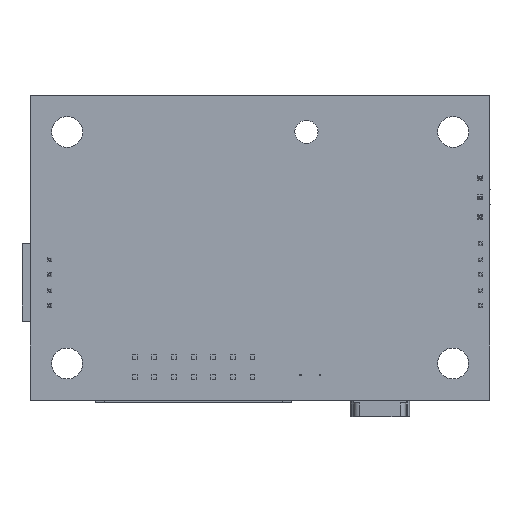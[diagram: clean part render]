
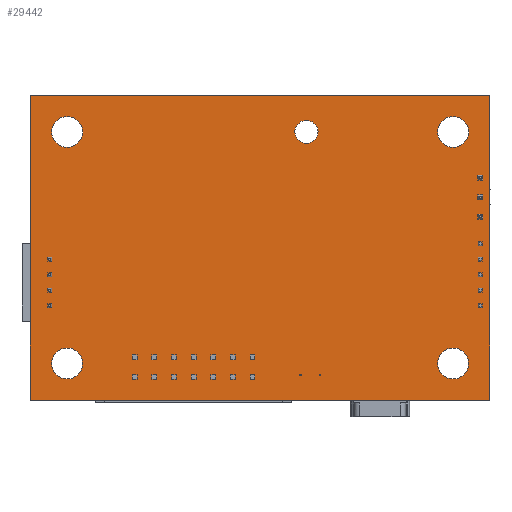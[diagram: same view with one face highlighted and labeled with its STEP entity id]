
A CAD part, front view. The second image highlights one B-rep face of the part: STEP entity #29442.
In plain terms, the highlighted planar face has unit normal (0, -1, 0).
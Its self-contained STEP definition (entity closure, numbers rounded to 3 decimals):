
#20345 = CARTESIAN_POINT ( 'NONE',  ( 6., -1.57, 16.5 ) ) ;
#20412 = CARTESIAN_POINT ( 'NONE',  ( -25., -1.57, 17. ) ) ;
#20414 = CARTESIAN_POINT ( 'NONE',  ( -25., -1.57, 13. ) ) ;
#20416 = DIRECTION ( 'NONE',  ( 0., 0., 1. ) ) ;
#20418 = DIRECTION ( 'NONE',  ( 0., 1., 0. ) ) ;
#20421 = CARTESIAN_POINT ( 'NONE',  ( -25., -1.57, 15. ) ) ;
#20423 = AXIS2_PLACEMENT_3D ( 'NONE', #20421, #20418, #20416 ) ;
#20424 = CIRCLE ( 'NONE', #20423, 2. ) ;
#20437 = CIRCLE ( 'NONE', #20567, 2. ) ;
#20478 = CARTESIAN_POINT ( 'NONE',  ( -25., -1.57, -13. ) ) ;
#20481 = CARTESIAN_POINT ( 'NONE',  ( -25., -1.57, -17. ) ) ;
#20483 = DIRECTION ( 'NONE',  ( 0., 0., 1. ) ) ;
#20484 = DIRECTION ( 'NONE',  ( 0., 1., 0. ) ) ;
#20486 = CARTESIAN_POINT ( 'NONE',  ( -25., -1.57, -15. ) ) ;
#20487 = AXIS2_PLACEMENT_3D ( 'NONE', #20486, #20484, #20483 ) ;
#20499 = CIRCLE ( 'NONE', #20487, 2. ) ;
#20531 = CARTESIAN_POINT ( 'NONE',  ( 25., -1.57, -13. ) ) ;
#20541 = CARTESIAN_POINT ( 'NONE',  ( 25., -1.57, -17. ) ) ;
#20561 = DIRECTION ( 'NONE',  ( 0., 0., 1. ) ) ;
#20563 = DIRECTION ( 'NONE',  ( 0., 1., 0. ) ) ;
#20565 = CARTESIAN_POINT ( 'NONE',  ( 25., -1.57, 15. ) ) ;
#20567 = AXIS2_PLACEMENT_3D ( 'NONE', #20565, #20563, #20561 ) ;
#20599 = CARTESIAN_POINT ( 'NONE',  ( 25., -1.57, 17. ) ) ;
#20601 = CARTESIAN_POINT ( 'NONE',  ( 25., -1.57, 13. ) ) ;
#20603 = DIRECTION ( 'NONE',  ( 0., 0., 1. ) ) ;
#20605 = DIRECTION ( 'NONE',  ( 0., 1., 0. ) ) ;
#20607 = CARTESIAN_POINT ( 'NONE',  ( 25., -1.57, 15. ) ) ;
#20608 = AXIS2_PLACEMENT_3D ( 'NONE', #20607, #20605, #20603 ) ;
#20610 = CIRCLE ( 'NONE', #20608, 2. ) ;
#20613 = DIRECTION ( 'NONE',  ( 0., 0., 1. ) ) ;
#20615 = DIRECTION ( 'NONE',  ( 0., 1., 0. ) ) ;
#20617 = CARTESIAN_POINT ( 'NONE',  ( 25., -1.57, -15. ) ) ;
#20618 = AXIS2_PLACEMENT_3D ( 'NONE', #20617, #20615, #20613 ) ;
#20629 = CIRCLE ( 'NONE', #20618, 2. ) ;
#20649 = VECTOR ( 'NONE', #20793, 1000. ) ;
#20651 = CARTESIAN_POINT ( 'NONE',  ( -29.75, -1.57, -19.75 ) ) ;
#20652 = LINE ( 'NONE', #20651, #20649 ) ;
#20659 = CARTESIAN_POINT ( 'NONE',  ( -29.75, -1.57, -19.75 ) ) ;
#20669 = CARTESIAN_POINT ( 'NONE',  ( 6., -1.57, 13.5 ) ) ;
#20671 = DIRECTION ( 'NONE',  ( 0., 0., 1. ) ) ;
#20672 = DIRECTION ( 'NONE',  ( 0., 1., 0. ) ) ;
#20674 = CARTESIAN_POINT ( 'NONE',  ( 6., -1.57, 15. ) ) ;
#20676 = AXIS2_PLACEMENT_3D ( 'NONE', #20674, #20672, #20671 ) ;
#20677 = CIRCLE ( 'NONE', #20676, 1.5 ) ;
#20683 = DIRECTION ( 'NONE',  ( 0., 0., 1. ) ) ;
#20685 = DIRECTION ( 'NONE',  ( 0., 1., 0. ) ) ;
#20687 = CARTESIAN_POINT ( 'NONE',  ( 25., -1.57, -15. ) ) ;
#20689 = AXIS2_PLACEMENT_3D ( 'NONE', #20687, #20685, #20683 ) ;
#20702 = CIRCLE ( 'NONE', #20689, 2. ) ;
#20722 = DIRECTION ( 'NONE',  ( 0., 1., 0. ) ) ;
#20724 = CARTESIAN_POINT ( 'NONE',  ( -25., -1.57, -15. ) ) ;
#20726 = AXIS2_PLACEMENT_3D ( 'NONE', #20724, #20722, #20869 ) ;
#20737 = CIRCLE ( 'NONE', #20726, 2. ) ;
#20791 = CARTESIAN_POINT ( 'NONE',  ( -29.75, -1.57, 19.75 ) ) ;
#20793 = DIRECTION ( 'NONE',  ( 0., 0., 1. ) ) ;
#20795 = DIRECTION ( 'NONE',  ( 0., 1., 0. ) ) ;
#20796 = CARTESIAN_POINT ( 'NONE',  ( -25., -1.57, 15. ) ) ;
#20797 = AXIS2_PLACEMENT_3D ( 'NONE', #20796, #20795, #20943 ) ;
#20809 = CIRCLE ( 'NONE', #20797, 2. ) ;
#20832 = DIRECTION ( 'NONE',  ( 0., 0., 1. ) ) ;
#20834 = DIRECTION ( 'NONE',  ( 0., 1., 0. ) ) ;
#20836 = CARTESIAN_POINT ( 'NONE',  ( 6., -1.57, 15. ) ) ;
#20837 = AXIS2_PLACEMENT_3D ( 'NONE', #20836, #20834, #20832 ) ;
#20847 = CIRCLE ( 'NONE', #20837, 1.5 ) ;
#20869 = DIRECTION ( 'NONE',  ( 0., 0., 1. ) ) ;
#20874 = CARTESIAN_POINT ( 'NONE',  ( -29.75, -1.57, 19.75 ) ) ;
#20875 = PLANE ( 'NONE',  #21019 ) ;
#20877 = FACE_OUTER_BOUND ( 'NONE', #29487, .T. ) ;
#20878 = FACE_BOUND ( 'NONE', #29430, .T. ) ;
#20879 = FACE_BOUND ( 'NONE', #29427, .T. ) ;
#20881 = FACE_BOUND ( 'NONE', #29424, .T. ) ;
#20882 = FACE_BOUND ( 'NONE', #29499, .T. ) ;
#20884 = FACE_BOUND ( 'NONE', #29443, .T. ) ;
#20886 = DIRECTION ( 'NONE',  ( 1., 0., 0. ) ) ;
#20888 = VECTOR ( 'NONE', #20886, 1000. ) ;
#20890 = CARTESIAN_POINT ( 'NONE',  ( -29.75, -1.57, 19.75 ) ) ;
#20892 = LINE ( 'NONE', #20890, #20888 ) ;
#20919 = DIRECTION ( 'NONE',  ( 0., 0., -1. ) ) ;
#20921 = VECTOR ( 'NONE', #20919, 1000. ) ;
#20923 = CARTESIAN_POINT ( 'NONE',  ( 29.75, -1.57, -19.75 ) ) ;
#20924 = LINE ( 'NONE', #20923, #20921 ) ;
#20943 = DIRECTION ( 'NONE',  ( 0., 0., 1. ) ) ;
#20956 = CARTESIAN_POINT ( 'NONE',  ( 29.75, -1.57, 19.75 ) ) ;
#20993 = DIRECTION ( 'NONE',  ( -1., 0., 0. ) ) ;
#20994 = VECTOR ( 'NONE', #20993, 1000. ) ;
#20996 = CARTESIAN_POINT ( 'NONE',  ( -29.75, -1.57, -19.75 ) ) ;
#20998 = LINE ( 'NONE', #20996, #20994 ) ;
#21003 = CARTESIAN_POINT ( 'NONE',  ( 29.75, -1.57, -19.75 ) ) ;
#21016 = DIRECTION ( 'NONE',  ( 0., 0., 1. ) ) ;
#21018 = DIRECTION ( 'NONE',  ( 0., 1., 0. ) ) ;
#21019 = AXIS2_PLACEMENT_3D ( 'NONE', #20874, #21018, #21016 ) ;
#29302 = VERTEX_POINT ( 'NONE', #20345 ) ;
#29316 = EDGE_CURVE ( 'NONE', #29317, #29318, #20424, .T. ) ;
#29317 = VERTEX_POINT ( 'NONE', #20414 ) ;
#29318 = VERTEX_POINT ( 'NONE', #20412 ) ;
#29332 = EDGE_CURVE ( 'NONE', #29333, #29334, #20499, .T. ) ;
#29333 = VERTEX_POINT ( 'NONE', #20481 ) ;
#29334 = VERTEX_POINT ( 'NONE', #20478 ) ;
#29347 = EDGE_CURVE ( 'NONE', #29369, #29368, #20437, .T. ) ;
#29352 = VERTEX_POINT ( 'NONE', #20541 ) ;
#29353 = VERTEX_POINT ( 'NONE', #20531 ) ;
#29366 = EDGE_CURVE ( 'NONE', #29353, #29352, #20629, .T. ) ;
#29367 = EDGE_CURVE ( 'NONE', #29368, #29369, #20610, .T. ) ;
#29368 = VERTEX_POINT ( 'NONE', #20601 ) ;
#29369 = VERTEX_POINT ( 'NONE', #20599 ) ;
#29381 = EDGE_CURVE ( 'NONE', #29352, #29353, #20702, .T. ) ;
#29383 = EDGE_CURVE ( 'NONE', #29384, #29302, #20677, .T. ) ;
#29384 = VERTEX_POINT ( 'NONE', #20669 ) ;
#29386 = VERTEX_POINT ( 'NONE', #20659 ) ;
#29388 = EDGE_CURVE ( 'NONE', #29386, #29389, #20652, .T. ) ;
#29389 = VERTEX_POINT ( 'NONE', #20791 ) ;
#29403 = EDGE_CURVE ( 'NONE', #29334, #29333, #20737, .T. ) ;
#29412 = EDGE_CURVE ( 'NONE', #29302, #29384, #20847, .T. ) ;
#29420 = EDGE_CURVE ( 'NONE', #29318, #29317, #20809, .T. ) ;
#29424 = EDGE_LOOP ( 'NONE', ( #29425, #29426 ) ) ;
#29425 = ORIENTED_EDGE ( 'NONE', *, *, #29412, .T. ) ;
#29426 = ORIENTED_EDGE ( 'NONE', *, *, #29383, .T. ) ;
#29427 = EDGE_LOOP ( 'NONE', ( #29428, #29429 ) ) ;
#29428 = ORIENTED_EDGE ( 'NONE', *, *, #29403, .T. ) ;
#29429 = ORIENTED_EDGE ( 'NONE', *, *, #29332, .T. ) ;
#29430 = EDGE_LOOP ( 'NONE', ( #29485, #29486 ) ) ;
#29432 = EDGE_CURVE ( 'NONE', #29458, #29447, #20924, .T. ) ;
#29440 = EDGE_CURVE ( 'NONE', #29389, #29458, #20892, .T. ) ;
#29442 = ADVANCED_FACE ( 'NONE', ( #20884, #20882, #20881, #20879, #20878, #20877 ), #20875, .F. ) ;
#29443 = EDGE_LOOP ( 'NONE', ( #29497, #29498 ) ) ;
#29447 = VERTEX_POINT ( 'NONE', #21003 ) ;
#29449 = EDGE_CURVE ( 'NONE', #29447, #29386, #20998, .T. ) ;
#29458 = VERTEX_POINT ( 'NONE', #20956 ) ;
#29485 = ORIENTED_EDGE ( 'NONE', *, *, #29420, .T. ) ;
#29486 = ORIENTED_EDGE ( 'NONE', *, *, #29316, .T. ) ;
#29487 = EDGE_LOOP ( 'NONE', ( #29488, #29489, #29490, #29491 ) ) ;
#29488 = ORIENTED_EDGE ( 'NONE', *, *, #29388, .F. ) ;
#29489 = ORIENTED_EDGE ( 'NONE', *, *, #29449, .F. ) ;
#29490 = ORIENTED_EDGE ( 'NONE', *, *, #29432, .F. ) ;
#29491 = ORIENTED_EDGE ( 'NONE', *, *, #29440, .F. ) ;
#29497 = ORIENTED_EDGE ( 'NONE', *, *, #29347, .T. ) ;
#29498 = ORIENTED_EDGE ( 'NONE', *, *, #29367, .T. ) ;
#29499 = EDGE_LOOP ( 'NONE', ( #29500, #29501 ) ) ;
#29500 = ORIENTED_EDGE ( 'NONE', *, *, #29366, .T. ) ;
#29501 = ORIENTED_EDGE ( 'NONE', *, *, #29381, .T. ) ;
